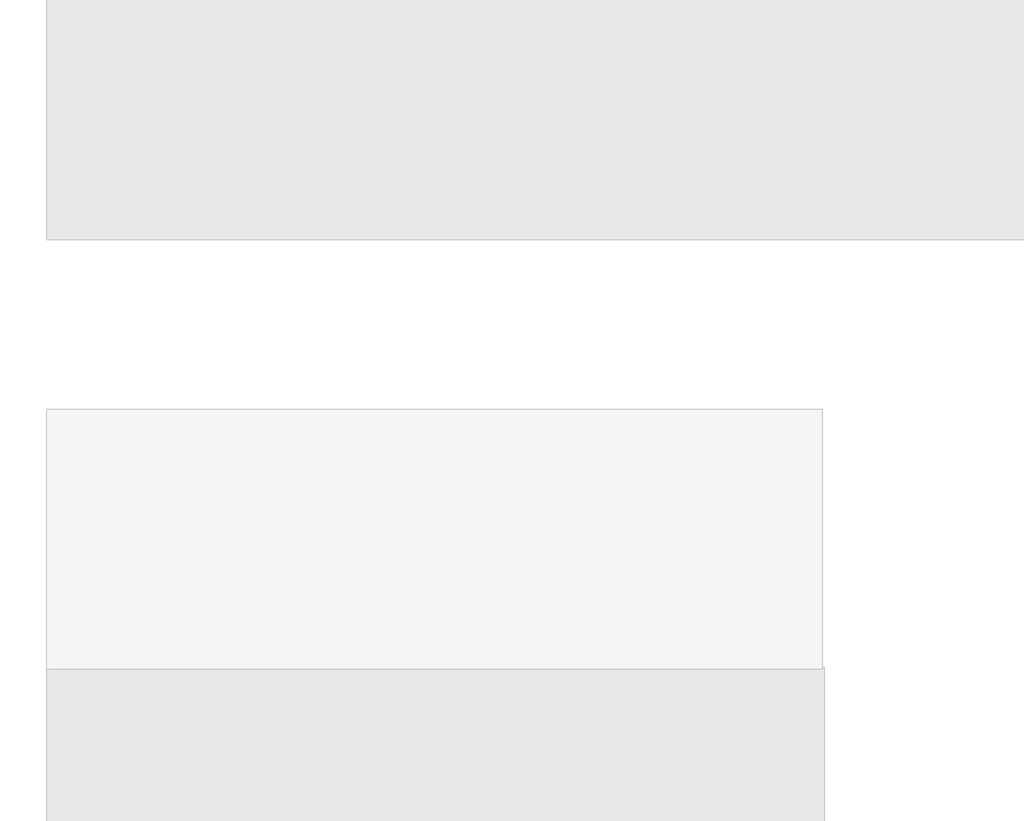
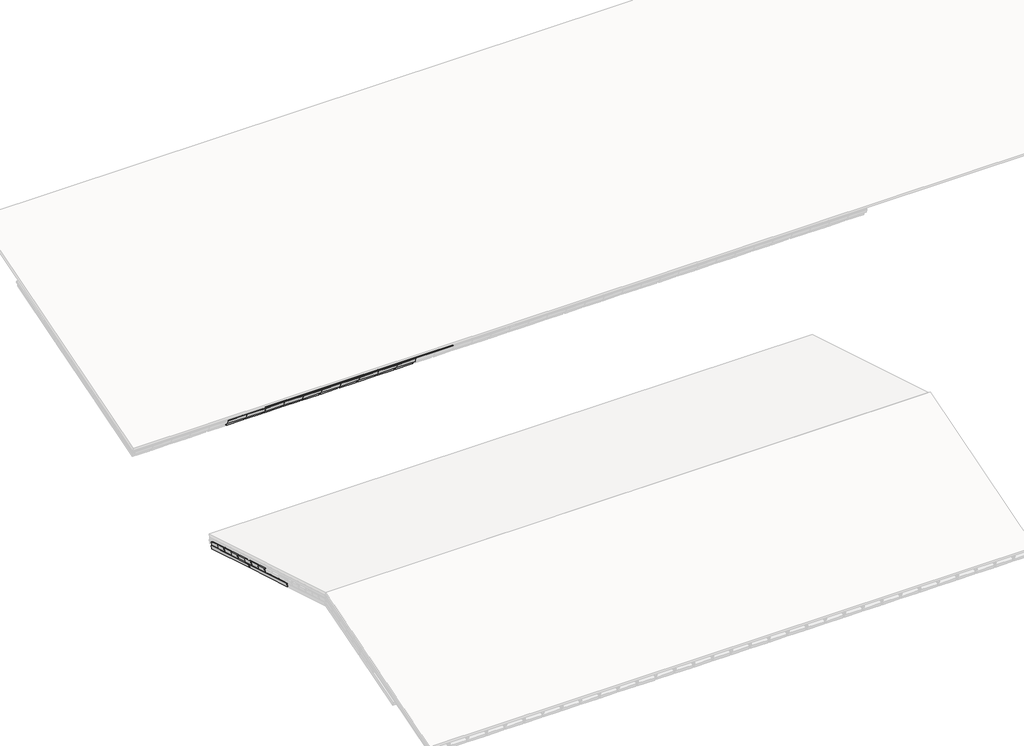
# One storey, part 7 of 57: 64 plates, 59 members.
"""IFC4 building model written with IfcOpenShell, lengths in millimetres."""

from ifc_helpers import new_model, si_unit, origin, place, context, project, spatial, transform, mapped, element, save
from components import rectangular_mullion_59984080, rectangular_mullion_e3e5c75d, rectangular_mullion_883ae41b, rectangular_mullion_caibro_e4384bba, empty_system_panel_vazio_178faf58, empty_system_panel_vazio_2c78850d, empty_system_panel_vazio_6414fa12, empty_system_panel_vazio_0d2c84fb, empty_system_panel_vazio_8e6531d4

model = new_model("IFC4")

# Units and contexts
model_context = context("Model", 3, world=origin())
ifc_project = project(units=[si_unit("LENGTHUNIT", "METRE", prefix="MILLI")], contexts=[model_context])

# Site, building, storey
site = spatial("IfcSite", under=ifc_project)
building = spatial("IfcBuilding", under=site)
storey = spatial("IfcBuildingStorey", under=building, Name="Nível 2", Elevation=4100.0)

# Members
placement = place(None, origin())
rectangular_mullion_shape = rectangular_mullion_59984080(model_context)
element("IfcMember", 1, ObjectType="Rectangular Mullion : Ripa", at=placement, inside=storey, context=model_context, shape_type="MappedRepresentation", body=[
    mapped(rectangular_mullion_shape, transform((5359.0091907, 7422.2287521, 3376.7178042), x_axis=(0.0, 0.9578262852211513, 0.2873478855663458), y_axis=(0.0, 0.2873478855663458, -0.9578262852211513), z_axis=(-1.0, 0.0, 0.0))),
])
element("IfcMember", 2, ObjectType="Rectangular Mullion : Ripa", at=placement, inside=storey, context=model_context, shape_type="MappedRepresentation", body=[
    mapped(rectangular_mullion_shape, transform((5956.0639471, 7422.2287521, 3376.7178042), x_axis=(0.0, 0.9578262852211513, 0.2873478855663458), y_axis=(0.0, 0.2873478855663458, -0.9578262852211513), z_axis=(-1.0, 0.0, 0.0))),
])
element("IfcMember", 3, ObjectType="Rectangular Mullion : Ripa", at=placement, inside=storey, context=model_context, shape_type="MappedRepresentation", body=[
    mapped(rectangular_mullion_shape, transform((6553.1187036, 7422.2287521, 3376.7178042), x_axis=(0.0, 0.9578262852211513, 0.2873478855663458), y_axis=(0.0, 0.2873478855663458, -0.9578262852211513), z_axis=(-1.0, 0.0, 0.0))),
])
element("IfcMember", 4, ObjectType="Rectangular Mullion : Ripa", at=placement, inside=storey, context=model_context, shape_type="MappedRepresentation", body=[
    mapped(rectangular_mullion_shape, transform((7150.17346, 7422.2287521, 3376.7178042), x_axis=(0.0, 0.9578262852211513, 0.2873478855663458), y_axis=(0.0, 0.2873478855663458, -0.9578262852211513), z_axis=(-1.0, 0.0, 0.0))),
])
element("IfcMember", 5, ObjectType="Rectangular Mullion : Ripa", at=placement, inside=storey, context=model_context, shape_type="MappedRepresentation", body=[
    mapped(rectangular_mullion_shape, transform((7747.2282164, 7422.2287521, 3376.7178042), x_axis=(0.0, 0.9578262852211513, 0.2873478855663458), y_axis=(0.0, 0.2873478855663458, -0.9578262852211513), z_axis=(-1.0, 0.0, 0.0))),
])
element("IfcMember", 6, ObjectType="Rectangular Mullion : Ripa", at=placement, inside=storey, context=model_context, shape_type="MappedRepresentation", body=[
    mapped(rectangular_mullion_shape, transform((8344.2829728, 7422.2287521, 3376.7178042), x_axis=(0.0, 0.9578262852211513, 0.2873478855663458), y_axis=(0.0, 0.2873478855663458, -0.9578262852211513), z_axis=(-1.0, 0.0, 0.0))),
])
element("IfcMember", 7, ObjectType="Rectangular Mullion : Ripa", at=placement, inside=storey, context=model_context, shape_type="MappedRepresentation", body=[
    mapped(rectangular_mullion_shape, transform((8941.3377293, 7422.2287521, 3376.7178042), x_axis=(0.0, 0.9578262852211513, 0.2873478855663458), y_axis=(0.0, 0.2873478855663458, -0.9578262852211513), z_axis=(-1.0, 0.0, 0.0))),
])
element("IfcMember", 8, ObjectType="Rectangular Mullion : Ripa", at=placement, inside=storey, context=model_context, shape_type="MappedRepresentation", body=[
    mapped(rectangular_mullion_shape, transform((9538.3924857, 7422.2287521, 3376.7178042), x_axis=(0.0, 0.9578262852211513, 0.2873478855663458), y_axis=(0.0, 0.2873478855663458, -0.9578262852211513), z_axis=(-1.0, 0.0, 0.0))),
])
element("IfcMember", 9, ObjectType="Rectangular Mullion : Ripa", at=placement, inside=storey, context=model_context, shape_type="MappedRepresentation", body=[
    mapped(rectangular_mullion_shape, transform((10135.4472421, 7422.2287521, 3376.7178042), x_axis=(0.0, 0.9578262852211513, 0.2873478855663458), y_axis=(0.0, 0.2873478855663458, -0.9578262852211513), z_axis=(-1.0, 0.0, 0.0))),
])
element("IfcMember", 10, ObjectType="Rectangular Mullion : Ripa", at=placement, inside=storey, context=model_context, shape_type="MappedRepresentation", body=[
    mapped(rectangular_mullion_shape, transform((10732.5019985, 7422.2287521, 3376.7178042), x_axis=(0.0, 0.9578262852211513, 0.2873478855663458), y_axis=(0.0, 0.2873478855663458, -0.9578262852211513), z_axis=(-1.0, 0.0, 0.0))),
])
element("IfcMember", 11, ObjectType="Rectangular Mullion : Ripa", at=placement, inside=storey, context=model_context, shape_type="MappedRepresentation", body=[
    mapped(rectangular_mullion_shape, transform((5359.0091907, 7792.4060108, 3487.7709818), x_axis=(0.0, 0.9578262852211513, 0.2873478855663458), y_axis=(0.0, 0.2873478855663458, -0.9578262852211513), z_axis=(-1.0, 0.0, 0.0))),
])
element("IfcMember", 12, ObjectType="Rectangular Mullion : Ripa", at=placement, inside=storey, context=model_context, shape_type="MappedRepresentation", body=[
    mapped(rectangular_mullion_shape, transform((5956.0639471, 7792.4060108, 3487.7709818), x_axis=(0.0, 0.9578262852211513, 0.2873478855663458), y_axis=(0.0, 0.2873478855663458, -0.9578262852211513), z_axis=(-1.0, 0.0, 0.0))),
])
element("IfcMember", 13, ObjectType="Rectangular Mullion : Ripa", at=placement, inside=storey, context=model_context, shape_type="MappedRepresentation", body=[
    mapped(rectangular_mullion_shape, transform((6553.1187036, 7792.4060108, 3487.7709818), x_axis=(0.0, 0.9578262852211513, 0.2873478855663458), y_axis=(0.0, 0.2873478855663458, -0.9578262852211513), z_axis=(-1.0, 0.0, 0.0))),
])
element("IfcMember", 14, ObjectType="Rectangular Mullion : Ripa", at=placement, inside=storey, context=model_context, shape_type="MappedRepresentation", body=[
    mapped(rectangular_mullion_shape, transform((7150.17346, 7792.4060108, 3487.7709818), x_axis=(0.0, 0.9578262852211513, 0.2873478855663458), y_axis=(0.0, 0.2873478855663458, -0.9578262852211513), z_axis=(-1.0, 0.0, 0.0))),
])
element("IfcMember", 15, ObjectType="Rectangular Mullion : Ripa", at=placement, inside=storey, context=model_context, shape_type="MappedRepresentation", body=[
    mapped(rectangular_mullion_shape, transform((7747.2282164, 7792.4060108, 3487.7709818), x_axis=(0.0, 0.9578262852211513, 0.2873478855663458), y_axis=(0.0, 0.2873478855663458, -0.9578262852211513), z_axis=(-1.0, 0.0, 0.0))),
])
element("IfcMember", 16, ObjectType="Rectangular Mullion : Ripa", at=placement, inside=storey, context=model_context, shape_type="MappedRepresentation", body=[
    mapped(rectangular_mullion_shape, transform((8344.2829728, 7792.4060108, 3487.7709818), x_axis=(0.0, 0.9578262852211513, 0.2873478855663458), y_axis=(0.0, 0.2873478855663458, -0.9578262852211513), z_axis=(-1.0, 0.0, 0.0))),
])
element("IfcMember", 17, ObjectType="Rectangular Mullion : Ripa", at=placement, inside=storey, context=model_context, shape_type="MappedRepresentation", body=[
    mapped(rectangular_mullion_shape, transform((8941.3377293, 7792.4060108, 3487.7709818), x_axis=(0.0, 0.9578262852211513, 0.2873478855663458), y_axis=(0.0, 0.2873478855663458, -0.9578262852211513), z_axis=(-1.0, 0.0, 0.0))),
])
element("IfcMember", 18, ObjectType="Rectangular Mullion : Ripa", at=placement, inside=storey, context=model_context, shape_type="MappedRepresentation", body=[
    mapped(rectangular_mullion_shape, transform((9538.3924857, 7792.4060108, 3487.7709818), x_axis=(0.0, 0.9578262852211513, 0.2873478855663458), y_axis=(0.0, 0.2873478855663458, -0.9578262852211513), z_axis=(-1.0, 0.0, 0.0))),
])
element("IfcMember", 19, ObjectType="Rectangular Mullion : Ripa", at=placement, inside=storey, context=model_context, shape_type="MappedRepresentation", body=[
    mapped(rectangular_mullion_shape, transform((10135.4472421, 7792.4060108, 3487.7709818), x_axis=(0.0, 0.9578262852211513, 0.2873478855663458), y_axis=(0.0, 0.2873478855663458, -0.9578262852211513), z_axis=(-1.0, 0.0, 0.0))),
])
element("IfcMember", 20, ObjectType="Rectangular Mullion : Ripa", at=placement, inside=storey, context=model_context, shape_type="MappedRepresentation", body=[
    mapped(rectangular_mullion_shape, transform((10732.5019985, 7792.4060108, 3487.7709818), x_axis=(0.0, 0.9578262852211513, 0.2873478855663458), y_axis=(0.0, 0.2873478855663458, -0.9578262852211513), z_axis=(-1.0, 0.0, 0.0))),
])
rectangular_mullion_2_shape = rectangular_mullion_e3e5c75d(model_context)
element("IfcMember", 21, ObjectType="Rectangular Mullion : Ripa", at=placement, inside=storey, context=model_context, shape_type="MappedRepresentation", body=[
    mapped(rectangular_mullion_2_shape, transform((6528.1187036, 7004.1601792, 3251.2972323), x_axis=(0.0, -0.9578262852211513, -0.2873478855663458), y_axis=(0.0, 0.2873478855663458, -0.9578262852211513), z_axis=(1.0, 0.0, 0.0))),
])
element("IfcMember", 22, ObjectType="Rectangular Mullion : Ripa", at=placement, inside=storey, context=model_context, shape_type="MappedRepresentation", body=[
    mapped(rectangular_mullion_2_shape, transform((7125.17346, 7004.1601792, 3251.2972323), x_axis=(0.0, -0.9578262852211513, -0.2873478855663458), y_axis=(0.0, 0.2873478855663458, -0.9578262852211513), z_axis=(1.0, 0.0, 0.0))),
])
element("IfcMember", 23, ObjectType="Rectangular Mullion : Ripa", at=placement, inside=storey, context=model_context, shape_type="MappedRepresentation", body=[
    mapped(rectangular_mullion_2_shape, transform((7722.2282164, 7004.1601792, 3251.2972323), x_axis=(0.0, -0.9578262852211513, -0.2873478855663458), y_axis=(0.0, 0.2873478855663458, -0.9578262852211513), z_axis=(1.0, 0.0, 0.0))),
])
element("IfcMember", 24, ObjectType="Rectangular Mullion : Ripa", at=placement, inside=storey, context=model_context, shape_type="MappedRepresentation", body=[
    mapped(rectangular_mullion_2_shape, transform((8319.2829728, 7004.1601792, 3251.2972323), x_axis=(0.0, -0.9578262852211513, -0.2873478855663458), y_axis=(0.0, 0.2873478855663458, -0.9578262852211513), z_axis=(1.0, 0.0, 0.0))),
])
element("IfcMember", 25, ObjectType="Rectangular Mullion : Ripa", at=placement, inside=storey, context=model_context, shape_type="MappedRepresentation", body=[
    mapped(rectangular_mullion_2_shape, transform((8916.3377293, 7004.1601792, 3251.2972323), x_axis=(0.0, -0.9578262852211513, -0.2873478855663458), y_axis=(0.0, 0.2873478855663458, -0.9578262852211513), z_axis=(1.0, 0.0, 0.0))),
])
element("IfcMember", 26, ObjectType="Rectangular Mullion : Ripa", at=placement, inside=storey, context=model_context, shape_type="MappedRepresentation", body=[
    mapped(rectangular_mullion_2_shape, transform((9513.3924857, 7004.1601792, 3251.2972323), x_axis=(0.0, -0.9578262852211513, -0.2873478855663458), y_axis=(0.0, 0.2873478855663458, -0.9578262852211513), z_axis=(1.0, 0.0, 0.0))),
])
element("IfcMember", 27, ObjectType="Rectangular Mullion : Ripa", at=placement, inside=storey, context=model_context, shape_type="MappedRepresentation", body=[
    mapped(rectangular_mullion_2_shape, transform((10110.4472421, 7004.1601792, 3251.2972323), x_axis=(0.0, -0.9578262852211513, -0.2873478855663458), y_axis=(0.0, 0.2873478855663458, -0.9578262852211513), z_axis=(1.0, 0.0, 0.0))),
])
element("IfcMember", 28, ObjectType="Rectangular Mullion : Ripa", at=placement, inside=storey, context=model_context, shape_type="MappedRepresentation", body=[
    mapped(rectangular_mullion_2_shape, transform((10707.5019985, 7004.1601792, 3251.2972323), x_axis=(0.0, -0.9578262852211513, -0.2873478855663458), y_axis=(0.0, 0.2873478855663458, -0.9578262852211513), z_axis=(1.0, 0.0, 0.0))),
])
element("IfcMember", 29, ObjectType="Rectangular Mullion : Ripa", at=placement, inside=storey, context=model_context, shape_type="MappedRepresentation", body=[
    mapped(rectangular_mullion_2_shape, transform((11304.556755, 7004.1601792, 3251.2972323), x_axis=(0.0, -0.9578262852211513, -0.2873478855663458), y_axis=(0.0, 0.2873478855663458, -0.9578262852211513), z_axis=(1.0, 0.0, 0.0))),
])
element("IfcMember", 30, ObjectType="Rectangular Mullion : Ripa", at=placement, inside=storey, context=model_context, shape_type="MappedRepresentation", body=[
    mapped(rectangular_mullion_2_shape, transform((11901.6115114, 7004.1601792, 3251.2972323), x_axis=(0.0, -0.9578262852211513, -0.2873478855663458), y_axis=(0.0, 0.2873478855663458, -0.9578262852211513), z_axis=(1.0, 0.0, 0.0))),
])
rectangular_mullion_3_shape = rectangular_mullion_883ae41b(model_context)
element("IfcMember", 31, ObjectType="Rectangular Mullion : Terça", at=placement, inside=storey, context=model_context, shape_type="MappedRepresentation", body=[
    mapped(rectangular_mullion_3_shape, transform((5334.0091907, 7004.1601792, 3188.6553932), x_axis=(0.0, -0.9578262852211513, -0.2873478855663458), y_axis=(0.0, 0.2873478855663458, -0.9578262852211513), z_axis=(1.0, 0.0, 0.0))),
])
element("IfcMember", 32, ObjectType="Rectangular Mullion : Terça", at=placement, inside=storey, context=model_context, shape_type="MappedRepresentation", body=[
    mapped(rectangular_mullion_3_shape, transform((5931.0639471, 7004.1601792, 3188.6553932), x_axis=(0.0, -0.9578262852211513, -0.2873478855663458), y_axis=(0.0, 0.2873478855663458, -0.9578262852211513), z_axis=(1.0, 0.0, 0.0))),
])
element("IfcMember", 33, ObjectType="Rectangular Mullion : Terça", at=placement, inside=storey, context=model_context, shape_type="MappedRepresentation", body=[
    mapped(rectangular_mullion_3_shape, transform((6528.1187036, 7004.1601792, 3188.6553932), x_axis=(0.0, -0.9578262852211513, -0.2873478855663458), y_axis=(0.0, 0.2873478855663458, -0.9578262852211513), z_axis=(1.0, 0.0, 0.0))),
])
element("IfcMember", 34, ObjectType="Rectangular Mullion : Terça", at=placement, inside=storey, context=model_context, shape_type="MappedRepresentation", body=[
    mapped(rectangular_mullion_3_shape, transform((7125.17346, 7004.1601792, 3188.6553932), x_axis=(0.0, -0.9578262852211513, -0.2873478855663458), y_axis=(0.0, 0.2873478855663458, -0.9578262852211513), z_axis=(1.0, 0.0, 0.0))),
])
element("IfcMember", 35, ObjectType="Rectangular Mullion : Terça", at=placement, inside=storey, context=model_context, shape_type="MappedRepresentation", body=[
    mapped(rectangular_mullion_3_shape, transform((7722.2282164, 7004.1601792, 3188.6553932), x_axis=(0.0, -0.9578262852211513, -0.2873478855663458), y_axis=(0.0, 0.2873478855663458, -0.9578262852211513), z_axis=(1.0, 0.0, 0.0))),
])
element("IfcMember", 36, ObjectType="Rectangular Mullion : Terça", at=placement, inside=storey, context=model_context, shape_type="MappedRepresentation", body=[
    mapped(rectangular_mullion_3_shape, transform((8319.2829728, 7004.1601792, 3188.6553932), x_axis=(0.0, -0.9578262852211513, -0.2873478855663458), y_axis=(0.0, 0.2873478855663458, -0.9578262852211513), z_axis=(1.0, 0.0, 0.0))),
])
element("IfcMember", 37, ObjectType="Rectangular Mullion : Terça", at=placement, inside=storey, context=model_context, shape_type="MappedRepresentation", body=[
    mapped(rectangular_mullion_3_shape, transform((8916.3377293, 7004.1601792, 3188.6553932), x_axis=(0.0, -0.9578262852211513, -0.2873478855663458), y_axis=(0.0, 0.2873478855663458, -0.9578262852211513), z_axis=(1.0, 0.0, 0.0))),
])
element("IfcMember", 38, ObjectType="Rectangular Mullion : Terça", at=placement, inside=storey, context=model_context, shape_type="MappedRepresentation", body=[
    mapped(rectangular_mullion_3_shape, transform((9513.3924857, 7004.1601792, 3188.6553932), x_axis=(0.0, -0.9578262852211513, -0.2873478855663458), y_axis=(0.0, 0.2873478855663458, -0.9578262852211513), z_axis=(1.0, 0.0, 0.0))),
])
element("IfcMember", 39, ObjectType="Rectangular Mullion : Terça", at=placement, inside=storey, context=model_context, shape_type="MappedRepresentation", body=[
    mapped(rectangular_mullion_3_shape, transform((10110.4472421, 7004.1601792, 3188.6553932), x_axis=(0.0, -0.9578262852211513, -0.2873478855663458), y_axis=(0.0, 0.2873478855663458, -0.9578262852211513), z_axis=(1.0, 0.0, 0.0))),
])
element("IfcMember", 40, ObjectType="Rectangular Mullion : Terça", at=placement, inside=storey, context=model_context, shape_type="MappedRepresentation", body=[
    mapped(rectangular_mullion_3_shape, transform((10707.5019985, 7004.1601792, 3188.6553932), x_axis=(0.0, -0.9578262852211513, -0.2873478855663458), y_axis=(0.0, 0.2873478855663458, -0.9578262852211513), z_axis=(1.0, 0.0, 0.0))),
])
rectangular_mullion_caibro_shape = rectangular_mullion_caibro_e4384bba(model_context)
element("IfcMember", 41, ObjectType="Rectangular Mullion : Caibro", at=placement, inside=storey, context=model_context, shape_type="MappedRepresentation", body=[
    mapped(rectangular_mullion_caibro_shape, transform((5931.0639471, 7422.2287521, 3376.7178042), x_axis=(1.0, 0.0, 0.0), y_axis=(0.0, 0.2873478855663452, -0.9578262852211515), z_axis=(0.0, 0.9578262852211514, 0.28734788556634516))),
])
element("IfcMember", 42, ObjectType="Rectangular Mullion : Caibro", at=placement, inside=storey, context=model_context, shape_type="MappedRepresentation", body=[
    mapped(rectangular_mullion_caibro_shape, transform((6528.1187036, 7422.2287521, 3376.7178042), x_axis=(1.0, 0.0, 0.0), y_axis=(0.0, 0.2873478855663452, -0.9578262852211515), z_axis=(0.0, 0.9578262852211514, 0.28734788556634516))),
])
element("IfcMember", 43, ObjectType="Rectangular Mullion : Caibro", at=placement, inside=storey, context=model_context, shape_type="MappedRepresentation", body=[
    mapped(rectangular_mullion_caibro_shape, transform((7125.17346, 7422.2287521, 3376.7178042), x_axis=(1.0, 0.0, 0.0), y_axis=(0.0, 0.2873478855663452, -0.9578262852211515), z_axis=(0.0, 0.9578262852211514, 0.28734788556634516))),
])
element("IfcMember", 44, ObjectType="Rectangular Mullion : Caibro", at=placement, inside=storey, context=model_context, shape_type="MappedRepresentation", body=[
    mapped(rectangular_mullion_caibro_shape, transform((7722.2282164, 7422.2287521, 3376.7178042), x_axis=(1.0, 0.0, 0.0), y_axis=(0.0, 0.2873478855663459, -0.9578262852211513), z_axis=(0.0, 0.9578262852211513, 0.2873478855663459))),
])
element("IfcMember", 45, ObjectType="Rectangular Mullion : Caibro", at=placement, inside=storey, context=model_context, shape_type="MappedRepresentation", body=[
    mapped(rectangular_mullion_caibro_shape, transform((8319.2829728, 7422.2287521, 3376.7178042), x_axis=(1.0, 0.0, 0.0), y_axis=(0.0, 0.2873478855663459, -0.9578262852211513), z_axis=(0.0, 0.9578262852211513, 0.2873478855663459))),
])
element("IfcMember", 46, ObjectType="Rectangular Mullion : Caibro", at=placement, inside=storey, context=model_context, shape_type="MappedRepresentation", body=[
    mapped(rectangular_mullion_caibro_shape, transform((8916.3377293, 7422.2287521, 3376.7178042), x_axis=(1.0, 0.0, 0.0), y_axis=(0.0, 0.2873478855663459, -0.9578262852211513), z_axis=(0.0, 0.9578262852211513, 0.2873478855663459))),
])
element("IfcMember", 47, ObjectType="Rectangular Mullion : Caibro", at=placement, inside=storey, context=model_context, shape_type="MappedRepresentation", body=[
    mapped(rectangular_mullion_caibro_shape, transform((9513.3924857, 7422.2287521, 3376.7178042), x_axis=(1.0, 0.0, 0.0), y_axis=(0.0, 0.2873478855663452, -0.9578262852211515), z_axis=(0.0, 0.9578262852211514, 0.28734788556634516))),
])
element("IfcMember", 48, ObjectType="Rectangular Mullion : Caibro", at=placement, inside=storey, context=model_context, shape_type="MappedRepresentation", body=[
    mapped(rectangular_mullion_caibro_shape, transform((10110.4472421, 7422.2287521, 3376.7178042), x_axis=(1.0, 0.0, 0.0), y_axis=(0.0, 0.2873478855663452, -0.9578262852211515), z_axis=(0.0, 0.9578262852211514, 0.28734788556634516))),
])
element("IfcMember", 49, ObjectType="Rectangular Mullion : Caibro", at=placement, inside=storey, context=model_context, shape_type="MappedRepresentation", body=[
    mapped(rectangular_mullion_caibro_shape, transform((10707.5019985, 7422.2287521, 3376.7178042), x_axis=(1.0, 0.0, 0.0), y_axis=(0.0, 0.2873478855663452, -0.9578262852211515), z_axis=(0.0, 0.9578262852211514, 0.28734788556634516))),
])
element("IfcMember", 50, ObjectType="Rectangular Mullion : Caibro", at=placement, inside=storey, context=model_context, shape_type="MappedRepresentation", body=[
    mapped(rectangular_mullion_caibro_shape, transform((11304.556755, 7422.2287521, 3376.7178042), x_axis=(1.0, 0.0, 0.0), y_axis=(0.0, 0.2873478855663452, -0.9578262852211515), z_axis=(0.0, 0.9578262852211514, 0.28734788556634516))),
])
element("IfcMember", 51, ObjectType="Rectangular Mullion : Caibro", at=placement, inside=storey, context=model_context, shape_type="MappedRepresentation", body=[
    mapped(rectangular_mullion_caibro_shape, transform((5931.0639471, 7792.4060108, 3487.7709818), x_axis=(1.0, 0.0, 0.0), y_axis=(0.0, 0.2873478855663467, -0.9578262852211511), z_axis=(0.0, 0.9578262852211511, 0.2873478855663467))),
])
element("IfcMember", 52, ObjectType="Rectangular Mullion : Caibro", at=placement, inside=storey, context=model_context, shape_type="MappedRepresentation", body=[
    mapped(rectangular_mullion_caibro_shape, transform((6528.1187036, 7792.4060108, 3487.7709818), x_axis=(1.0, 0.0, 0.0), y_axis=(0.0, 0.2873478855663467, -0.9578262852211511), z_axis=(0.0, 0.9578262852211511, 0.2873478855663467))),
])
element("IfcMember", 53, ObjectType="Rectangular Mullion : Caibro", at=placement, inside=storey, context=model_context, shape_type="MappedRepresentation", body=[
    mapped(rectangular_mullion_caibro_shape, transform((7125.17346, 7792.4060108, 3487.7709818), x_axis=(1.0, 0.0, 0.0), y_axis=(0.0, 0.2873478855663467, -0.9578262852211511), z_axis=(0.0, 0.9578262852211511, 0.2873478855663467))),
])
element("IfcMember", 54, ObjectType="Rectangular Mullion : Caibro", at=placement, inside=storey, context=model_context, shape_type="MappedRepresentation", body=[
    mapped(rectangular_mullion_caibro_shape, transform((7722.2282164, 7792.4060108, 3487.7709818), x_axis=(1.0, 0.0, 0.0), y_axis=(0.0, 0.2873478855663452, -0.9578262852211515), z_axis=(0.0, 0.9578262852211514, 0.28734788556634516))),
])
element("IfcMember", 55, ObjectType="Rectangular Mullion : Caibro", at=placement, inside=storey, context=model_context, shape_type="MappedRepresentation", body=[
    mapped(rectangular_mullion_caibro_shape, transform((8319.2829728, 7792.4060108, 3487.7709818), x_axis=(1.0, 0.0, 0.0), y_axis=(0.0, 0.2873478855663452, -0.9578262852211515), z_axis=(0.0, 0.9578262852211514, 0.28734788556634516))),
])
element("IfcMember", 56, ObjectType="Rectangular Mullion : Caibro", at=placement, inside=storey, context=model_context, shape_type="MappedRepresentation", body=[
    mapped(rectangular_mullion_caibro_shape, transform((8916.3377293, 7792.4060108, 3487.7709818), x_axis=(1.0, 0.0, 0.0), y_axis=(0.0, 0.2873478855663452, -0.9578262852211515), z_axis=(0.0, 0.9578262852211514, 0.28734788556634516))),
])
element("IfcMember", 57, ObjectType="Rectangular Mullion : Caibro", at=placement, inside=storey, context=model_context, shape_type="MappedRepresentation", body=[
    mapped(rectangular_mullion_caibro_shape, transform((9513.3924857, 7792.4060108, 3487.7709818), x_axis=(1.0, 0.0, 0.0), y_axis=(0.0, 0.2873478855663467, -0.9578262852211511), z_axis=(0.0, 0.9578262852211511, 0.2873478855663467))),
])
element("IfcMember", 58, ObjectType="Rectangular Mullion : Caibro", at=placement, inside=storey, context=model_context, shape_type="MappedRepresentation", body=[
    mapped(rectangular_mullion_caibro_shape, transform((10110.4472421, 7792.4060108, 3487.7709818), x_axis=(1.0, 0.0, 0.0), y_axis=(0.0, 0.2873478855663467, -0.9578262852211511), z_axis=(0.0, 0.9578262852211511, 0.2873478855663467))),
])
element("IfcMember", 59, ObjectType="Rectangular Mullion : Caibro", at=placement, inside=storey, context=model_context, shape_type="MappedRepresentation", body=[
    mapped(rectangular_mullion_caibro_shape, transform((10707.5019985, 7792.4060108, 3487.7709818), x_axis=(1.0, 0.0, 0.0), y_axis=(0.0, 0.2873478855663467, -0.9578262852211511), z_axis=(0.0, 0.9578262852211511, 0.2873478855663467))),
])

# Plates
empty_system_panel_vazio_shape = empty_system_panel_vazio_178faf58(model_context)
element("IfcPlate", 60, ObjectType="Empty System Panel : Vazio", at=placement, inside=storey, context=model_context, shape_type="MappedRepresentation", body=[
    mapped(empty_system_panel_vazio_shape, transform((6229.5913253, 7052.0514934, 3265.6646266), x_axis=(1.0, 0.0, 0.0), y_axis=(0.0, 0.2873478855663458, -0.9578262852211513), z_axis=(0.0, 0.9578262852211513, 0.2873478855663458))),
])
element("IfcPlate", 61, ObjectType="Empty System Panel : Vazio", at=placement, inside=storey, context=model_context, shape_type="MappedRepresentation", body=[
    mapped(empty_system_panel_vazio_shape, transform((6826.6460818, 7052.0514934, 3265.6646266), x_axis=(1.0, 0.0, 0.0), y_axis=(0.0, 0.2873478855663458, -0.9578262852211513), z_axis=(0.0, 0.9578262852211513, 0.2873478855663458))),
])
element("IfcPlate", 62, ObjectType="Empty System Panel : Vazio", at=placement, inside=storey, context=model_context, shape_type="MappedRepresentation", body=[
    mapped(empty_system_panel_vazio_shape, transform((7423.7008382, 7052.0514934, 3265.6646266), x_axis=(1.0, 0.0, 0.0), y_axis=(0.0, 0.2873478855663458, -0.9578262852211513), z_axis=(0.0, 0.9578262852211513, 0.2873478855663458))),
])
element("IfcPlate", 63, ObjectType="Empty System Panel : Vazio", at=placement, inside=storey, context=model_context, shape_type="MappedRepresentation", body=[
    mapped(empty_system_panel_vazio_shape, transform((8020.7555946, 7052.0514934, 3265.6646266), x_axis=(1.0, 0.0, 0.0), y_axis=(0.0, 0.2873478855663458, -0.9578262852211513), z_axis=(0.0, 0.9578262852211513, 0.2873478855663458))),
])
element("IfcPlate", 64, ObjectType="Empty System Panel : Vazio", at=placement, inside=storey, context=model_context, shape_type="MappedRepresentation", body=[
    mapped(empty_system_panel_vazio_shape, transform((8617.810351, 7052.0514934, 3265.6646266), x_axis=(1.0, 0.0, 0.0), y_axis=(0.0, 0.2873478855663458, -0.9578262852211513), z_axis=(0.0, 0.9578262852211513, 0.2873478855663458))),
])
element("IfcPlate", 65, ObjectType="Empty System Panel : Vazio", at=placement, inside=storey, context=model_context, shape_type="MappedRepresentation", body=[
    mapped(empty_system_panel_vazio_shape, transform((9214.8651075, 7052.0514934, 3265.6646266), x_axis=(1.0, 0.0, 0.0), y_axis=(0.0, 0.2873478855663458, -0.9578262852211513), z_axis=(0.0, 0.9578262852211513, 0.2873478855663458))),
])
element("IfcPlate", 66, ObjectType="Empty System Panel : Vazio", at=placement, inside=storey, context=model_context, shape_type="MappedRepresentation", body=[
    mapped(empty_system_panel_vazio_shape, transform((9811.9198639, 7052.0514934, 3265.6646266), x_axis=(1.0, 0.0, 0.0), y_axis=(0.0, 0.2873478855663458, -0.9578262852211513), z_axis=(0.0, 0.9578262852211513, 0.2873478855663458))),
])
element("IfcPlate", 67, ObjectType="Empty System Panel : Vazio", at=placement, inside=storey, context=model_context, shape_type="MappedRepresentation", body=[
    mapped(empty_system_panel_vazio_shape, transform((10408.9746203, 7052.0514934, 3265.6646266), x_axis=(1.0, 0.0, 0.0), y_axis=(0.0, 0.2873478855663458, -0.9578262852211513), z_axis=(0.0, 0.9578262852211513, 0.2873478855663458))),
])
element("IfcPlate", 68, ObjectType="Empty System Panel : Vazio", at=placement, inside=storey, context=model_context, shape_type="MappedRepresentation", body=[
    mapped(empty_system_panel_vazio_shape, transform((11006.0293767, 7052.0514934, 3265.6646266), x_axis=(1.0, 0.0, 0.0), y_axis=(0.0, 0.2873478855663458, -0.9578262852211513), z_axis=(0.0, 0.9578262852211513, 0.2873478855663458))),
])
element("IfcPlate", 69, ObjectType="Empty System Panel : Vazio", at=placement, inside=storey, context=model_context, shape_type="MappedRepresentation", body=[
    mapped(empty_system_panel_vazio_shape, transform((11603.0841332, 7052.0514934, 3265.6646266), x_axis=(1.0, 0.0, 0.0), y_axis=(0.0, 0.2873478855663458, -0.9578262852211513), z_axis=(0.0, 0.9578262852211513, 0.2873478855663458))),
])
element("IfcPlate", 70, ObjectType="Empty System Panel : Vazio", at=placement, inside=storey, context=model_context, shape_type="MappedRepresentation", body=[
    mapped(empty_system_panel_vazio_shape, transform((6229.5913253, 7422.2287521, 3376.7178042), x_axis=(1.0, 0.0, 0.0), y_axis=(0.0, 0.2873478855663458, -0.9578262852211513), z_axis=(0.0, 0.9578262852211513, 0.2873478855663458))),
])
element("IfcPlate", 71, ObjectType="Empty System Panel : Vazio", at=placement, inside=storey, context=model_context, shape_type="MappedRepresentation", body=[
    mapped(empty_system_panel_vazio_shape, transform((6826.6460818, 7422.2287521, 3376.7178042), x_axis=(1.0, 0.0, 0.0), y_axis=(0.0, 0.2873478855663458, -0.9578262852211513), z_axis=(0.0, 0.9578262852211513, 0.2873478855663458))),
])
element("IfcPlate", 72, ObjectType="Empty System Panel : Vazio", at=placement, inside=storey, context=model_context, shape_type="MappedRepresentation", body=[
    mapped(empty_system_panel_vazio_shape, transform((7423.7008382, 7422.2287521, 3376.7178042), x_axis=(1.0, 0.0, 0.0), y_axis=(0.0, 0.2873478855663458, -0.9578262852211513), z_axis=(0.0, 0.9578262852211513, 0.2873478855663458))),
])
element("IfcPlate", 73, ObjectType="Empty System Panel : Vazio", at=placement, inside=storey, context=model_context, shape_type="MappedRepresentation", body=[
    mapped(empty_system_panel_vazio_shape, transform((8020.7555946, 7422.2287521, 3376.7178042), x_axis=(1.0, 0.0, 0.0), y_axis=(0.0, 0.2873478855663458, -0.9578262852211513), z_axis=(0.0, 0.9578262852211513, 0.2873478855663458))),
])
element("IfcPlate", 74, ObjectType="Empty System Panel : Vazio", at=placement, inside=storey, context=model_context, shape_type="MappedRepresentation", body=[
    mapped(empty_system_panel_vazio_shape, transform((8617.810351, 7422.2287521, 3376.7178042), x_axis=(1.0, 0.0, 0.0), y_axis=(0.0, 0.2873478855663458, -0.9578262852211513), z_axis=(0.0, 0.9578262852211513, 0.2873478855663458))),
])
element("IfcPlate", 75, ObjectType="Empty System Panel : Vazio", at=placement, inside=storey, context=model_context, shape_type="MappedRepresentation", body=[
    mapped(empty_system_panel_vazio_shape, transform((9214.8651075, 7422.2287521, 3376.7178042), x_axis=(1.0, 0.0, 0.0), y_axis=(0.0, 0.2873478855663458, -0.9578262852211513), z_axis=(0.0, 0.9578262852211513, 0.2873478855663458))),
])
element("IfcPlate", 76, ObjectType="Empty System Panel : Vazio", at=placement, inside=storey, context=model_context, shape_type="MappedRepresentation", body=[
    mapped(empty_system_panel_vazio_shape, transform((9811.9198639, 7422.2287521, 3376.7178042), x_axis=(1.0, 0.0, 0.0), y_axis=(0.0, 0.2873478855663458, -0.9578262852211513), z_axis=(0.0, 0.9578262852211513, 0.2873478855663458))),
])
element("IfcPlate", 77, ObjectType="Empty System Panel : Vazio", at=placement, inside=storey, context=model_context, shape_type="MappedRepresentation", body=[
    mapped(empty_system_panel_vazio_shape, transform((10408.9746203, 7422.2287521, 3376.7178042), x_axis=(1.0, 0.0, 0.0), y_axis=(0.0, 0.2873478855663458, -0.9578262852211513), z_axis=(0.0, 0.9578262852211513, 0.2873478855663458))),
])
element("IfcPlate", 78, ObjectType="Empty System Panel : Vazio", at=placement, inside=storey, context=model_context, shape_type="MappedRepresentation", body=[
    mapped(empty_system_panel_vazio_shape, transform((11006.0293767, 7422.2287521, 3376.7178042), x_axis=(1.0, 0.0, 0.0), y_axis=(0.0, 0.2873478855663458, -0.9578262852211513), z_axis=(0.0, 0.9578262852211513, 0.2873478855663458))),
])
element("IfcPlate", 79, ObjectType="Empty System Panel : Vazio", at=placement, inside=storey, context=model_context, shape_type="MappedRepresentation", body=[
    mapped(empty_system_panel_vazio_shape, transform((11603.0841332, 7422.2287521, 3376.7178042), x_axis=(1.0, 0.0, 0.0), y_axis=(0.0, 0.2873478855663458, -0.9578262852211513), z_axis=(0.0, 0.9578262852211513, 0.2873478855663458))),
])
element("IfcPlate", 80, ObjectType="Empty System Panel : Vazio", at=placement, inside=storey, context=model_context, shape_type="MappedRepresentation", body=[
    mapped(empty_system_panel_vazio_shape, transform((6229.5913253, 7792.4060108, 3487.7709818), x_axis=(1.0, 0.0, 0.0), y_axis=(0.0, 0.2873478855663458, -0.9578262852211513), z_axis=(0.0, 0.9578262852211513, 0.2873478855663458))),
])
element("IfcPlate", 81, ObjectType="Empty System Panel : Vazio", at=placement, inside=storey, context=model_context, shape_type="MappedRepresentation", body=[
    mapped(empty_system_panel_vazio_shape, transform((6826.6460818, 7792.4060108, 3487.7709818), x_axis=(1.0, 0.0, 0.0), y_axis=(0.0, 0.2873478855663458, -0.9578262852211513), z_axis=(0.0, 0.9578262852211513, 0.2873478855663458))),
])
element("IfcPlate", 82, ObjectType="Empty System Panel : Vazio", at=placement, inside=storey, context=model_context, shape_type="MappedRepresentation", body=[
    mapped(empty_system_panel_vazio_shape, transform((7423.7008382, 7792.4060108, 3487.7709818), x_axis=(1.0, 0.0, 0.0), y_axis=(0.0, 0.2873478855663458, -0.9578262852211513), z_axis=(0.0, 0.9578262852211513, 0.2873478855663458))),
])
element("IfcPlate", 83, ObjectType="Empty System Panel : Vazio", at=placement, inside=storey, context=model_context, shape_type="MappedRepresentation", body=[
    mapped(empty_system_panel_vazio_shape, transform((8020.7555946, 7792.4060108, 3487.7709818), x_axis=(1.0, 0.0, 0.0), y_axis=(0.0, 0.2873478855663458, -0.9578262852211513), z_axis=(0.0, 0.9578262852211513, 0.2873478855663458))),
])
element("IfcPlate", 84, ObjectType="Empty System Panel : Vazio", at=placement, inside=storey, context=model_context, shape_type="MappedRepresentation", body=[
    mapped(empty_system_panel_vazio_shape, transform((8617.810351, 7792.4060108, 3487.7709818), x_axis=(1.0, 0.0, 0.0), y_axis=(0.0, 0.2873478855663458, -0.9578262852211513), z_axis=(0.0, 0.9578262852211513, 0.2873478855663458))),
])
element("IfcPlate", 85, ObjectType="Empty System Panel : Vazio", at=placement, inside=storey, context=model_context, shape_type="MappedRepresentation", body=[
    mapped(empty_system_panel_vazio_shape, transform((9214.8651075, 7792.4060108, 3487.7709818), x_axis=(1.0, 0.0, 0.0), y_axis=(0.0, 0.2873478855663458, -0.9578262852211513), z_axis=(0.0, 0.9578262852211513, 0.2873478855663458))),
])
element("IfcPlate", 86, ObjectType="Empty System Panel : Vazio", at=placement, inside=storey, context=model_context, shape_type="MappedRepresentation", body=[
    mapped(empty_system_panel_vazio_shape, transform((9811.9198639, 7792.4060108, 3487.7709818), x_axis=(1.0, 0.0, 0.0), y_axis=(0.0, 0.2873478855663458, -0.9578262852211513), z_axis=(0.0, 0.9578262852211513, 0.2873478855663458))),
])
element("IfcPlate", 87, ObjectType="Empty System Panel : Vazio", at=placement, inside=storey, context=model_context, shape_type="MappedRepresentation", body=[
    mapped(empty_system_panel_vazio_shape, transform((10408.9746203, 7792.4060108, 3487.7709818), x_axis=(1.0, 0.0, 0.0), y_axis=(0.0, 0.2873478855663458, -0.9578262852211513), z_axis=(0.0, 0.9578262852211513, 0.2873478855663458))),
])
element("IfcPlate", 88, ObjectType="Empty System Panel : Vazio", at=placement, inside=storey, context=model_context, shape_type="MappedRepresentation", body=[
    mapped(empty_system_panel_vazio_shape, transform((11006.0293767, 7792.4060108, 3487.7709818), x_axis=(1.0, 0.0, 0.0), y_axis=(0.0, 0.2873478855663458, -0.9578262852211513), z_axis=(0.0, 0.9578262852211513, 0.2873478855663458))),
])
element("IfcPlate", 89, ObjectType="Empty System Panel : Vazio", at=placement, inside=storey, context=model_context, shape_type="MappedRepresentation", body=[
    mapped(empty_system_panel_vazio_shape, transform((11603.0841332, 7792.4060108, 3487.7709818), x_axis=(1.0, 0.0, 0.0), y_axis=(0.0, 0.2873478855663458, -0.9578262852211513), z_axis=(0.0, 0.9578262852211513, 0.2873478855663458))),
])
empty_system_panel_vazio_2_shape = empty_system_panel_vazio_2c78850d(model_context)
element("IfcPlate", 90, ObjectType="Empty System Panel : Vazio", at=placement, inside=storey, context=model_context, shape_type="MappedRepresentation", body=[
    mapped(empty_system_panel_vazio_2_shape, transform((5035.4818125, 7061.6297563, 3205.8962664), x_axis=(1.0, 0.0, 0.0), y_axis=(0.0, 0.2873478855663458, -0.9578262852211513), z_axis=(0.0, 0.9578262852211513, 0.2873478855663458))),
])
element("IfcPlate", 91, ObjectType="Empty System Panel : Vazio", at=placement, inside=storey, context=model_context, shape_type="MappedRepresentation", body=[
    mapped(empty_system_panel_vazio_2_shape, transform((5632.5365689, 7061.6297563, 3205.8962664), x_axis=(1.0, 0.0, 0.0), y_axis=(0.0, 0.2873478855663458, -0.9578262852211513), z_axis=(0.0, 0.9578262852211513, 0.2873478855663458))),
])
element("IfcPlate", 92, ObjectType="Empty System Panel : Vazio", at=placement, inside=storey, context=model_context, shape_type="MappedRepresentation", body=[
    mapped(empty_system_panel_vazio_2_shape, transform((6229.5913253, 7061.6297563, 3205.8962664), x_axis=(1.0, 0.0, 0.0), y_axis=(0.0, 0.2873478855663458, -0.9578262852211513), z_axis=(0.0, 0.9578262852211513, 0.2873478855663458))),
])
element("IfcPlate", 93, ObjectType="Empty System Panel : Vazio", at=placement, inside=storey, context=model_context, shape_type="MappedRepresentation", body=[
    mapped(empty_system_panel_vazio_2_shape, transform((6826.6460818, 7061.6297563, 3205.8962664), x_axis=(1.0, 0.0, 0.0), y_axis=(0.0, 0.2873478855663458, -0.9578262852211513), z_axis=(0.0, 0.9578262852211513, 0.2873478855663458))),
])
element("IfcPlate", 94, ObjectType="Empty System Panel : Vazio", at=placement, inside=storey, context=model_context, shape_type="MappedRepresentation", body=[
    mapped(empty_system_panel_vazio_2_shape, transform((7423.7008382, 7061.6297563, 3205.8962664), x_axis=(1.0, 0.0, 0.0), y_axis=(0.0, 0.2873478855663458, -0.9578262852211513), z_axis=(0.0, 0.9578262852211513, 0.2873478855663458))),
])
element("IfcPlate", 95, ObjectType="Empty System Panel : Vazio", at=placement, inside=storey, context=model_context, shape_type="MappedRepresentation", body=[
    mapped(empty_system_panel_vazio_2_shape, transform((8020.7555946, 7061.6297563, 3205.8962664), x_axis=(1.0, 0.0, 0.0), y_axis=(0.0, 0.2873478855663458, -0.9578262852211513), z_axis=(0.0, 0.9578262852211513, 0.2873478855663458))),
])
element("IfcPlate", 96, ObjectType="Empty System Panel : Vazio", at=placement, inside=storey, context=model_context, shape_type="MappedRepresentation", body=[
    mapped(empty_system_panel_vazio_2_shape, transform((8617.810351, 7061.6297563, 3205.8962664), x_axis=(1.0, 0.0, 0.0), y_axis=(0.0, 0.2873478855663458, -0.9578262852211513), z_axis=(0.0, 0.9578262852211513, 0.2873478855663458))),
])
element("IfcPlate", 97, ObjectType="Empty System Panel : Vazio", at=placement, inside=storey, context=model_context, shape_type="MappedRepresentation", body=[
    mapped(empty_system_panel_vazio_2_shape, transform((9214.8651075, 7061.6297563, 3205.8962664), x_axis=(1.0, 0.0, 0.0), y_axis=(0.0, 0.2873478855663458, -0.9578262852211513), z_axis=(0.0, 0.9578262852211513, 0.2873478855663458))),
])
element("IfcPlate", 98, ObjectType="Empty System Panel : Vazio", at=placement, inside=storey, context=model_context, shape_type="MappedRepresentation", body=[
    mapped(empty_system_panel_vazio_2_shape, transform((9811.9198639, 7061.6297563, 3205.8962664), x_axis=(1.0, 0.0, 0.0), y_axis=(0.0, 0.2873478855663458, -0.9578262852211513), z_axis=(0.0, 0.9578262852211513, 0.2873478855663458))),
])
element("IfcPlate", 99, ObjectType="Empty System Panel : Vazio", at=placement, inside=storey, context=model_context, shape_type="MappedRepresentation", body=[
    mapped(empty_system_panel_vazio_2_shape, transform((10408.9746203, 7061.6297563, 3205.8962664), x_axis=(1.0, 0.0, 0.0), y_axis=(0.0, 0.2873478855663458, -0.9578262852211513), z_axis=(0.0, 0.9578262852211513, 0.2873478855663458))),
])
empty_system_panel_vazio_3_shape = empty_system_panel_vazio_6414fa12(model_context)
element("IfcPlate", 100, ObjectType="Empty System Panel : Vazio", at=placement, inside=storey, context=model_context, shape_type="MappedRepresentation", body=[
    mapped(empty_system_panel_vazio_3_shape, transform((15778.0910523, 2746.5740798, 2929.3806378), x_axis=(-1.0, 0.0, 0.0), y_axis=(0.0, -0.2873478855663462, -0.9578262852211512), z_axis=(0.0, -0.9578262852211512, 0.2873478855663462))),
])
element("IfcPlate", 101, ObjectType="Empty System Panel : Vazio", at=placement, inside=storey, context=model_context, shape_type="MappedRepresentation", body=[
    mapped(empty_system_panel_vazio_3_shape, transform((15181.2160523, 2746.5740798, 2929.3806378), x_axis=(-1.0, 0.0, 0.0), y_axis=(0.0, -0.2873478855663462, -0.9578262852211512), z_axis=(0.0, -0.9578262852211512, 0.2873478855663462))),
])
element("IfcPlate", 102, ObjectType="Empty System Panel : Vazio", at=placement, inside=storey, context=model_context, shape_type="MappedRepresentation", body=[
    mapped(empty_system_panel_vazio_3_shape, transform((14584.3410524, 2746.5740798, 2929.3806378), x_axis=(-1.0, 0.0, 0.0), y_axis=(0.0, -0.2873478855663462, -0.9578262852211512), z_axis=(0.0, -0.9578262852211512, 0.2873478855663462))),
])
element("IfcPlate", 103, ObjectType="Empty System Panel : Vazio", at=placement, inside=storey, context=model_context, shape_type="MappedRepresentation", body=[
    mapped(empty_system_panel_vazio_3_shape, transform((13987.4660524, 2746.5740798, 2929.3806378), x_axis=(-1.0, 0.0, 0.0), y_axis=(0.0, -0.2873478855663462, -0.9578262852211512), z_axis=(0.0, -0.9578262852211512, 0.2873478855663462))),
])
element("IfcPlate", 104, ObjectType="Empty System Panel : Vazio", at=placement, inside=storey, context=model_context, shape_type="MappedRepresentation", body=[
    mapped(empty_system_panel_vazio_3_shape, transform((13390.5910524, 2746.5740798, 2929.3806378), x_axis=(-1.0, 0.0, 0.0), y_axis=(0.0, -0.2873478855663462, -0.9578262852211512), z_axis=(0.0, -0.9578262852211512, 0.2873478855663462))),
])
element("IfcPlate", 105, ObjectType="Empty System Panel : Vazio", at=placement, inside=storey, context=model_context, shape_type="MappedRepresentation", body=[
    mapped(empty_system_panel_vazio_3_shape, transform((12793.7160524, 2746.5740798, 2929.3806378), x_axis=(-1.0, 0.0, 0.0), y_axis=(0.0, -0.2873478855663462, -0.9578262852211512), z_axis=(0.0, -0.9578262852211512, 0.2873478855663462))),
])
element("IfcPlate", 106, ObjectType="Empty System Panel : Vazio", at=placement, inside=storey, context=model_context, shape_type="MappedRepresentation", body=[
    mapped(empty_system_panel_vazio_3_shape, transform((12196.8410524, 2746.5740798, 2929.3806378), x_axis=(-1.0, 0.0, 0.0), y_axis=(0.0, -0.2873478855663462, -0.9578262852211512), z_axis=(0.0, -0.9578262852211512, 0.2873478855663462))),
])
element("IfcPlate", 107, ObjectType="Empty System Panel : Vazio", at=placement, inside=storey, context=model_context, shape_type="MappedRepresentation", body=[
    mapped(empty_system_panel_vazio_3_shape, transform((11599.9660525, 2746.5740798, 2929.3806378), x_axis=(-1.0, 0.0, 0.0), y_axis=(0.0, -0.2873478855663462, -0.9578262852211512), z_axis=(0.0, -0.9578262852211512, 0.2873478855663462))),
])
element("IfcPlate", 108, ObjectType="Empty System Panel : Vazio", at=placement, inside=storey, context=model_context, shape_type="MappedRepresentation", body=[
    mapped(empty_system_panel_vazio_3_shape, transform((11003.0910525, 2746.5740798, 2929.3806378), x_axis=(-1.0, 0.0, 0.0), y_axis=(0.0, -0.2873478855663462, -0.9578262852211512), z_axis=(0.0, -0.9578262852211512, 0.2873478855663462))),
])
element("IfcPlate", 109, ObjectType="Empty System Panel : Vazio", at=placement, inside=storey, context=model_context, shape_type="MappedRepresentation", body=[
    mapped(empty_system_panel_vazio_3_shape, transform((10406.2160525, 2746.5740798, 2929.3806378), x_axis=(-1.0, 0.0, 0.0), y_axis=(0.0, -0.2873478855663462, -0.9578262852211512), z_axis=(0.0, -0.9578262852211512, 0.2873478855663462))),
])
element("IfcPlate", 110, ObjectType="Empty System Panel : Vazio", at=placement, inside=storey, context=model_context, shape_type="MappedRepresentation", body=[
    mapped(empty_system_panel_vazio_3_shape, transform((9809.3410525, 2746.5740798, 2929.3806378), x_axis=(-1.0, 0.0, 0.0), y_axis=(0.0, -0.2873478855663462, -0.9578262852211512), z_axis=(0.0, -0.9578262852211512, 0.2873478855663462))),
])
element("IfcPlate", 111, ObjectType="Empty System Panel : Vazio", at=placement, inside=storey, context=model_context, shape_type="MappedRepresentation", body=[
    mapped(empty_system_panel_vazio_3_shape, transform((9212.4660525, 2746.5740798, 2929.3806378), x_axis=(-1.0, 0.0, 0.0), y_axis=(0.0, -0.2873478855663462, -0.9578262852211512), z_axis=(0.0, -0.9578262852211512, 0.2873478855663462))),
])
element("IfcPlate", 112, ObjectType="Empty System Panel : Vazio", at=placement, inside=storey, context=model_context, shape_type="MappedRepresentation", body=[
    mapped(empty_system_panel_vazio_3_shape, transform((8615.5910526, 2746.5740798, 2929.3806378), x_axis=(-1.0, 0.0, 0.0), y_axis=(0.0, -0.2873478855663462, -0.9578262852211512), z_axis=(0.0, -0.9578262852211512, 0.2873478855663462))),
])
element("IfcPlate", 113, ObjectType="Empty System Panel : Vazio", at=placement, inside=storey, context=model_context, shape_type="MappedRepresentation", body=[
    mapped(empty_system_panel_vazio_3_shape, transform((8018.7160526, 2746.5740798, 2929.3806378), x_axis=(-1.0, 0.0, 0.0), y_axis=(0.0, -0.2873478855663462, -0.9578262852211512), z_axis=(0.0, -0.9578262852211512, 0.2873478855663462))),
])
empty_system_panel_vazio_4_shape = empty_system_panel_vazio_0d2c84fb(model_context)
element("IfcPlate", 114, ObjectType="Empty System Panel : Vazio", at=placement, inside=storey, context=model_context, shape_type="MappedRepresentation", body=[
    mapped(empty_system_panel_vazio_4_shape, transform((11301.5285525, 2689.1045027, 2821.3378328), x_axis=(-1.0, 0.0, 0.0), y_axis=(0.0, -0.2873478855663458, -0.9578262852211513), z_axis=(0.0, -0.9578262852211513, 0.2873478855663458))),
])
element("IfcPlate", 115, ObjectType="Empty System Panel : Vazio", at=placement, inside=storey, context=model_context, shape_type="MappedRepresentation", body=[
    mapped(empty_system_panel_vazio_4_shape, transform((11301.5285525, 584.5059579, 3452.7173962), x_axis=(-1.0, 0.0, 0.0), y_axis=(0.0, -0.2873478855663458, -0.9578262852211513), z_axis=(0.0, -0.9578262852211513, 0.2873478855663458))),
])
empty_system_panel_vazio_5_shape = empty_system_panel_vazio_8e6531d4(model_context)
element("IfcPlate", 116, ObjectType="Empty System Panel : Vazio", at=placement, inside=storey, context=model_context, shape_type="MappedRepresentation", body=[
    mapped(empty_system_panel_vazio_5_shape, transform((11301.5285525, 2698.6827656, 2943.748032), x_axis=(-1.0, 0.0, 0.0), y_axis=(0.0, -0.2873478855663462, -0.9578262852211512), z_axis=(0.0, -0.9578262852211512, 0.2873478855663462))),
])
element("IfcPlate", 117, ObjectType="Empty System Panel : Vazio", at=placement, inside=storey, context=model_context, shape_type="MappedRepresentation", body=[
    mapped(empty_system_panel_vazio_5_shape, transform((11301.5285525, 2326.7195951, 3055.3369832), x_axis=(-1.0, 0.0, 0.0), y_axis=(0.0, -0.2873478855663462, -0.9578262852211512), z_axis=(0.0, -0.9578262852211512, 0.2873478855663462))),
])
element("IfcPlate", 118, ObjectType="Empty System Panel : Vazio", at=placement, inside=storey, context=model_context, shape_type="MappedRepresentation", body=[
    mapped(empty_system_panel_vazio_5_shape, transform((11301.5285525, 1954.7564247, 3166.9259343), x_axis=(-1.0, 0.0, 0.0), y_axis=(0.0, -0.2873478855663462, -0.9578262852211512), z_axis=(0.0, -0.9578262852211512, 0.2873478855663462))),
])
element("IfcPlate", 119, ObjectType="Empty System Panel : Vazio", at=placement, inside=storey, context=model_context, shape_type="MappedRepresentation", body=[
    mapped(empty_system_panel_vazio_5_shape, transform((11301.5285525, 1582.7932543, 3278.5148854), x_axis=(-1.0, 0.0, 0.0), y_axis=(0.0, -0.2873478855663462, -0.9578262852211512), z_axis=(0.0, -0.9578262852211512, 0.2873478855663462))),
])
element("IfcPlate", 120, ObjectType="Empty System Panel : Vazio", at=placement, inside=storey, context=model_context, shape_type="MappedRepresentation", body=[
    mapped(empty_system_panel_vazio_5_shape, transform((11301.5285525, 1210.8300839, 3390.1038365), x_axis=(-1.0, 0.0, 0.0), y_axis=(0.0, -0.2873478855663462, -0.9578262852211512), z_axis=(0.0, -0.9578262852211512, 0.2873478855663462))),
])
element("IfcPlate", 121, ObjectType="Empty System Panel : Vazio", at=placement, inside=storey, context=model_context, shape_type="MappedRepresentation", body=[
    mapped(empty_system_panel_vazio_5_shape, transform((11301.5285525, 838.8669134, 3501.6927877), x_axis=(-1.0, 0.0, 0.0), y_axis=(0.0, -0.2873478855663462, -0.9578262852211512), z_axis=(0.0, -0.9578262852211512, 0.2873478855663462))),
])
element("IfcPlate", 122, ObjectType="Empty System Panel : Vazio", at=placement, inside=storey, context=model_context, shape_type="MappedRepresentation", body=[
    mapped(empty_system_panel_vazio_5_shape, transform((11301.5285525, 466.903743, 3613.2817388), x_axis=(-1.0, 0.0, 0.0), y_axis=(0.0, -0.2873478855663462, -0.9578262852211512), z_axis=(0.0, -0.9578262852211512, 0.2873478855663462))),
])
element("IfcPlate", 123, ObjectType="Empty System Panel : Vazio", at=placement, inside=storey, context=model_context, shape_type="MappedRepresentation", body=[
    mapped(empty_system_panel_vazio_5_shape, transform((11301.5285525, 94.9405726, 3724.8706899), x_axis=(-1.0, 0.0, 0.0), y_axis=(0.0, -0.2873478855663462, -0.9578262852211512), z_axis=(0.0, -0.9578262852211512, 0.2873478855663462))),
])

save(model, "model.ifc")
